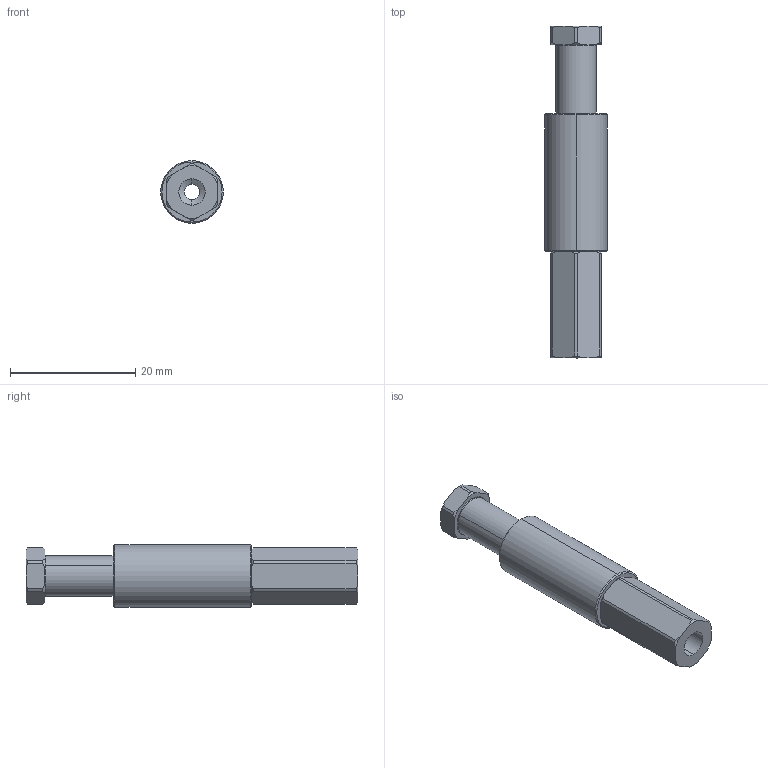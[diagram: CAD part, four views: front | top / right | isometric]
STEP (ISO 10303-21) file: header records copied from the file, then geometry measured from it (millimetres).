
FILE_DESCRIPTION (( 'STEP AP214' ), '1' );
FILE_NAME ('VFR1011-M5.STEP', '2019-11-15T05:53:42', ( '微软用户' ), ( '微软中国' ), 'SwSTEP 2.0', 'SolidWorks 2016', '' );
FILE_SCHEMA (( 'AUTOMOTIVE_DESIGN' ));
Length unit declared in the file: millimetre
Products named in the file (1): VFR1011-M5
Bounding box: 10 x 53 x 10 mm (x, y, z)
Volume: 2539.1 mm3; surface area: 3369.4 mm2
Topology: 3 solids, 3 shells, 132 faces, 334 edges, 214 vertices
Faces by surface type: cylinder 53, cone 46, plane 26, bspline 7
Entity records: 6835 total; most frequent: CARTESIAN_POINT 2266, ORIENTED_EDGE 668, DIRECTION 624, EDGE_CURVE 334, AXIS2_PLACEMENT_3D 252, VERTEX_POINT 214, EDGE_LOOP 144, UNCERTAINTY_MEASURE_WITH_UNIT 137
